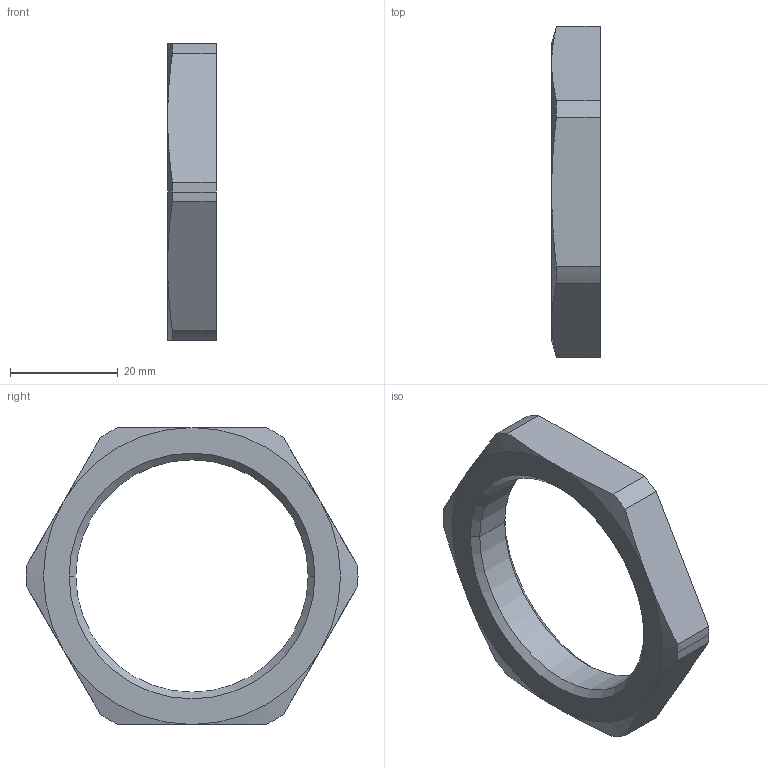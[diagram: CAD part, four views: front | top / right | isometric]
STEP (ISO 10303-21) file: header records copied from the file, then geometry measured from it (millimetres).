
FILE_DESCRIPTION((''),'2;1');
FILE_NAME('108715.0.stp','2007-11-06T08:51:55',(''),(''),'AutoCAD STEP 2000i','AutoCAD 2000i',', , ');
FILE_SCHEMA(('CONFIG_CONTROL_DESIGN'));
Length unit declared in the file: millimetre
Products named in the file (2): 108715.0; CHIAVE SMUSSX1036#0
Assembly tree (1 placements, depth 2):
  108715.0
    CHIAVE SMUSSX1036#0
Bounding box: 9 x 61.5 x 55 mm (x, y, z)
Volume: 10103.9 mm3; surface area: 4958.2 mm2
Topology: 1 solids, 1 shells, 28 faces, 68 edges, 42 vertices
Faces by surface type: cylinder 10, cone 10, plane 8
Entity records: 923 total; most frequent: CARTESIAN_POINT 164, DIRECTION 146, ORIENTED_EDGE 136, EDGE_CURVE 68, AXIS2_PLACEMENT_3D 60, VERTEX_POINT 42, CIRCLE 30, EDGE_LOOP 30
